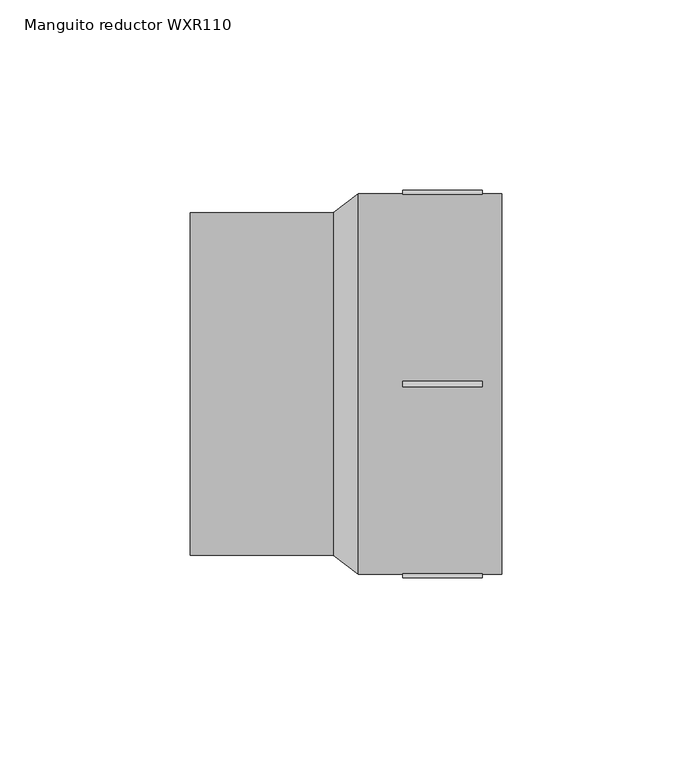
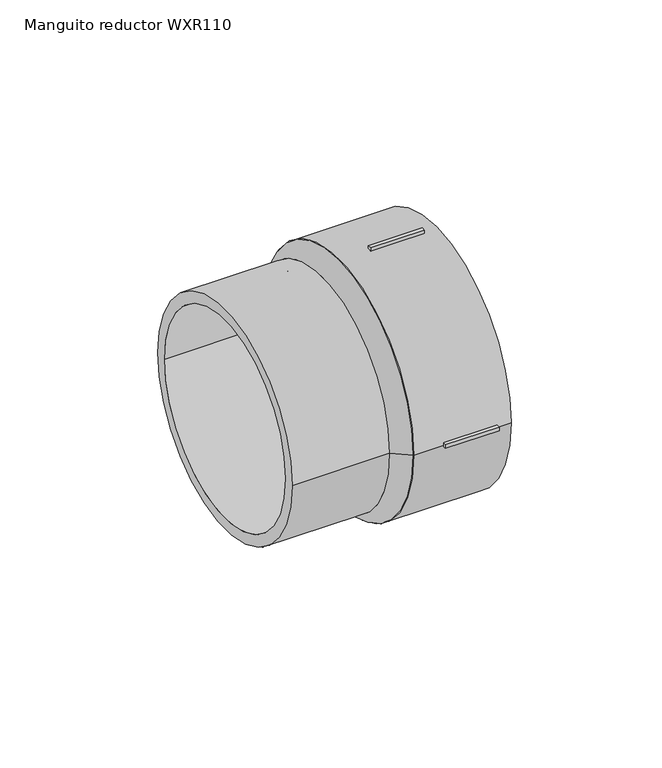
"""IFC4 building model written with IfcOpenShell, lengths in millimetres: pipe fitting geometry, EGB_VASEN_ PPR_Manguito reductor WXR110 : Manguito reductor WXR110."""

from ifc_helpers import new_model, si_unit, point, frame, origin, origin_2d, place, context, project, spatial, polyline, circle_curve, trimmed, segment, composite_curve, outline, extrude, source, transform, mapped, element, save
from ifc_brep_helpers import plane_surface, revolved_surface, advanced_brep


def manguito_reductor_wxr110_09d9a992(model_context):
    return source(origin(), model_context, "Body", "SolidModel", [
        extrude(outline(polyline([(15.0, -0.75), (15.0, 0.75), (35.8, 0.75), (35.8, -0.75), (15.0, -0.75)])), frame((0.0, 0.0, 49.0), z_axis=(0.0, 0.0, 1.0), x_axis=(1.0, 0.0, 0.0)), (0.0, 0.0, 1.0), 2.0),
        extrude(outline(polyline([(15.0, -0.75), (15.0, 0.75), (35.8, 0.75), (35.8, -0.75), (15.0, -0.75)])), frame((0.0, 0.0, -51.0), z_axis=(0.0, 0.0, 1.0), x_axis=(1.0, 0.0, 0.0)), (0.0, 0.0, 1.0), 2.0),
        extrude(outline(polyline([(15.0, 49.0), (15.0, 51.0), (35.8, 51.0), (35.8, 49.0), (15.0, 49.0)])), frame((0.0, 0.0, -0.75), z_axis=(0.0, 0.0, 1.0), x_axis=(1.0, 0.0, 0.0)), (0.0, 0.0, 1.0), 1.5),
        extrude(outline(polyline([(15.0, -51.0), (15.0, -49.0), (35.8, -49.0), (35.8, -51.0), (15.0, -51.0)])), frame((0.0, 0.0, -0.75), z_axis=(0.0, 0.0, 1.0), x_axis=(1.0, 0.0, 0.0)), (0.0, 0.0, 1.0), 1.5),
        extrude(outline(composite_curve([segment(trimmed(circle_curve(origin_2d(), 50.0), [point((-50.0, 0.0))], [point((50.0, 0.0))], False, "CARTESIAN"), True, "CONTINUOUS"), segment(trimmed(circle_curve(origin_2d(), 50.0), [point((50.0, 0.0))], [point((-50.0, 0.0))], False, "CARTESIAN"), True, "CONTINUOUS")], self_intersect=False), holes=[composite_curve([segment(trimmed(circle_curve(origin_2d(), 37.5), [point((-37.5, 0.0))], [point((37.5, 0.0))], True, "CARTESIAN"), True, "CONTINUOUS"), segment(trimmed(circle_curve(origin_2d(), 37.5), [point((37.5, 0.0))], [point((-37.5, 0.0))], True, "CARTESIAN"), True, "CONTINUOUS")], self_intersect=False)]), frame((3.28, 0.0, 0.0), z_axis=(1.0, 0.0, 0.0), x_axis=(0.0, 1.0, 0.0)), (0.0, 0.0, 1.0), 37.72),
        extrude(outline(composite_curve([segment(trimmed(circle_curve(origin_2d(), 45.0), [point((-45.0, 0.0))], [point((45.0, 0.0))], False, "CARTESIAN"), True, "CONTINUOUS"), segment(trimmed(circle_curve(origin_2d(), 45.0), [point((45.0, 0.0))], [point((-45.0, 0.0))], False, "CARTESIAN"), True, "CONTINUOUS")], self_intersect=False), holes=[composite_curve([segment(trimmed(circle_curve(origin_2d(), 40.5), [point((-40.5, 0.0))], [point((40.5, 0.0))], True, "CARTESIAN"), True, "CONTINUOUS"), segment(trimmed(circle_curve(origin_2d(), 40.5), [point((40.5, 0.0))], [point((-40.5, 0.0))], True, "CARTESIAN"), True, "CONTINUOUS")], self_intersect=False)]), frame((-41.0, 0.0, 0.0), z_axis=(1.0, 0.0, 0.0), x_axis=(0.0, 1.0, 0.0)), (0.0, 0.0, 1.0), 37.72),
        advanced_brep(
        [(3.28, -50.0, 0.0), (3.28, 50.0, 0.0), (-3.28, -45.0, 0.0), (-3.28, 45.0, 0.0)],
        [
            (0, 1, circle_curve(frame((3.28, 0.0, 0.0), z_axis=(1.0, 0.0, 0.0), x_axis=(0.0, -1.0, 0.0)), 50.0)),
            (1, 0, circle_curve(frame((3.28, 0.0, 0.0), z_axis=(1.0, 0.0, 0.0), x_axis=(0.0, 1.0, 0.0)), 50.0)),
            (2, 3, circle_curve(frame((-3.28, 0.0, 0.0), z_axis=(-1.0, 0.0, 0.0), x_axis=(0.0, 1.0, 0.0)), 45.0)),
            (3, 2, circle_curve(frame((-3.28, 0.0, 0.0), z_axis=(-1.0, 0.0, 0.0), x_axis=(0.0, -1.0, 0.0)), 45.0)),
            (3, 1),
            (0, 2),
        ],
        [
            plane_surface(frame((3.28, 0.0, 0.0), z_axis=(1.0, 0.0, 0.0), x_axis=(0.0, 0.0, -1.0))),
            plane_surface(frame((-3.28, 0.0, 0.0), z_axis=(-1.0, 0.0, 0.0), x_axis=(0.0, 0.0, -1.0))),
            revolved_surface(polyline([(-3.280000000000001, 45.0, 0.0), (3.279999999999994, 50.0, 0.0)]), (-62.32, 0.0, 0.0), (1.0, 0.0, 0.0)),
            revolved_surface(polyline([(-3.280000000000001, -45.0, 0.0), (3.279999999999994, -50.0, 0.0)]), (-62.32, 0.0, 0.0), (1.0, 0.0, 0.0)),
        ],
        [
            (0, [[1, 2]]),
            (1, [[3, 4]]),
            (2, [[-4, 5, -1, 6]]),
            (3, [[-3, -6, -2, -5]]),
        ],
    ),
    ])


if __name__ == "__main__":
    model = new_model("IFC4")
    model_context = context("Model", 3, world=origin())
    ifc_project = project(units=[si_unit("LENGTHUNIT", "METRE", prefix="MILLI")], contexts=[model_context])
    site = spatial("IfcSite", under=ifc_project)
    building = spatial("IfcBuilding", under=site)
    placement = place(None, origin())
    manguito_reductor_wxr110_shape = manguito_reductor_wxr110_09d9a992(model_context)
    element("IfcPipeFitting", 1, ObjectType="EGB_VASEN_ PPR_Manguito reductor WXR110 : Manguito reductor WXR110", at=placement, inside=building, context=model_context, shape_type="MappedRepresentation", body=[
        mapped(manguito_reductor_wxr110_shape, transform((0.0, 0.0, 0.0), x_axis=(1.0, 0.0, 0.0), y_axis=(0.0, 1.0, 0.0), z_axis=(0.0, 0.0, 1.0))),
    ])
    save(model, "model.ifc")
